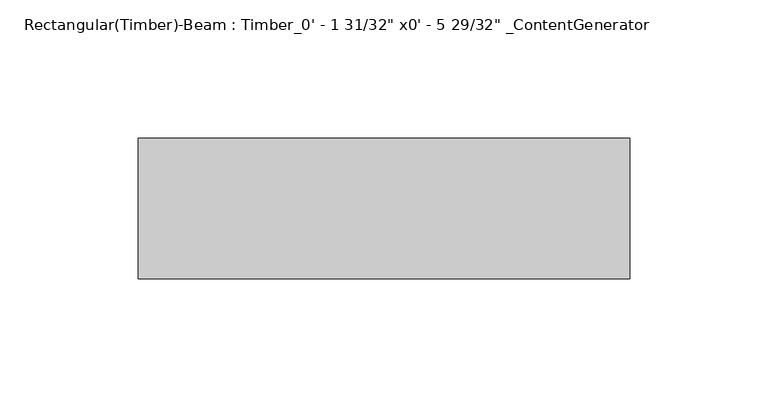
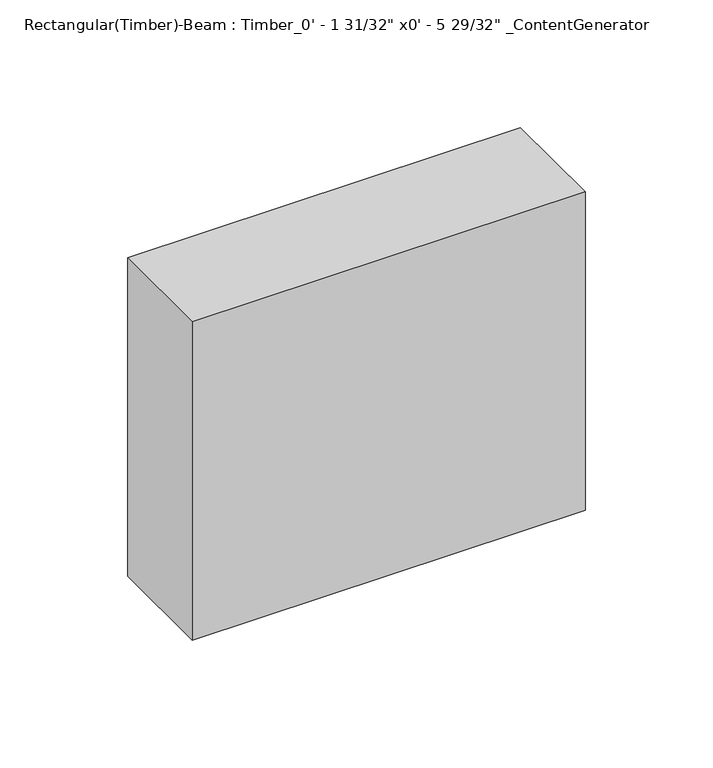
"""IFC4 building model written with IfcOpenShell, lengths in millimetres: beam geometry."""

from ifc_helpers import new_model, si_unit, frame, origin, place, context, project, spatial, polyline, outline, extrude, source, transform, mapped, element, save


def beam_e041d9c6(model_context):
    return source(origin(), model_context, "Body", "SweptSolid", [
        extrude(outline(polyline([(88.895, 25.4), (88.895, -25.4), (-88.895, -25.4), (-88.895, 25.4), (88.895, 25.4)])), frame((0.0, 0.0, -76.2), z_axis=(0.0, 0.0, 1.0), x_axis=(1.0, 0.0, 0.0)), (0.0, 0.0, 1.0), 152.4),
    ])


if __name__ == "__main__":
    model = new_model("IFC4")
    model_context = context("Model", 3, world=origin())
    ifc_project = project(units=[si_unit("LENGTHUNIT", "METRE", prefix="MILLI")], contexts=[model_context])
    site = spatial("IfcSite", under=ifc_project)
    building = spatial("IfcBuilding", under=site)
    placement = place(None, origin())
    beam_shape = beam_e041d9c6(model_context)
    element("IfcBeam", 1, ObjectType="Rectangular(Timber)-Beam : Timber_0' - 1 31/32\" x0' - 5 29/32\" _ContentGenerator", at=placement, inside=building, context=model_context, shape_type="MappedRepresentation", body=[
        mapped(beam_shape, transform((0.0, 0.0, 0.0), x_axis=(1.0, 0.0, 0.0), y_axis=(0.0, 1.0, 0.0), z_axis=(0.0, 0.0, 1.0))),
    ])
    save(model, "model.ifc")
